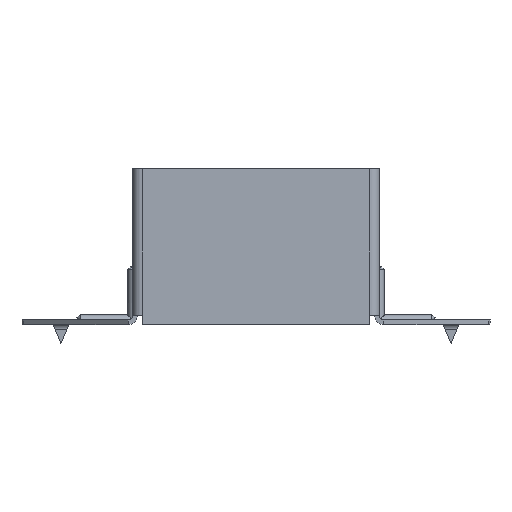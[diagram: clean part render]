
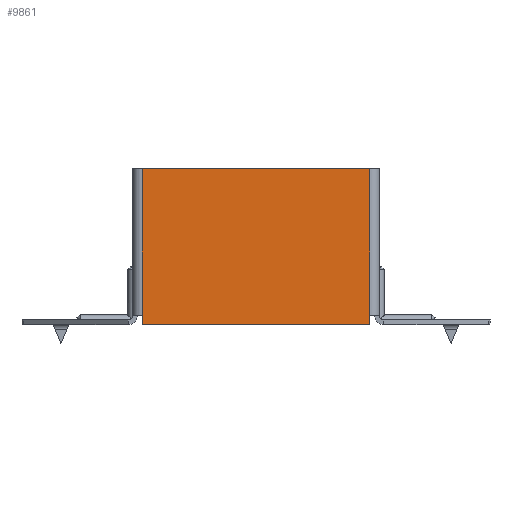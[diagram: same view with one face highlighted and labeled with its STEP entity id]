
A CAD part, front view. The second image highlights one B-rep face of the part: STEP entity #9861.
In plain terms, the highlighted planar face has unit normal (0, -1, 0).
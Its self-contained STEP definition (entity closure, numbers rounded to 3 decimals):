
#51 = DIRECTION ( 'NONE',  ( 0., 0., 1. ) ) ;
#400 = AXIS2_PLACEMENT_3D ( 'NONE', #8608, #3707, #51 ) ;
#558 = VECTOR ( 'NONE', #1292, 1000. ) ;
#565 = EDGE_CURVE ( 'NONE', #9390, #1703, #7878, .T. ) ;
#674 = VERTEX_POINT ( 'NONE', #13356 ) ;
#746 = CARTESIAN_POINT ( 'NONE',  ( 36.5, 0., -70. ) ) ;
#748 = VERTEX_POINT ( 'NONE', #3348 ) ;
#1292 = DIRECTION ( 'NONE',  ( 0., 0., -1. ) ) ;
#1391 = LINE ( 'NONE', #13460, #7091 ) ;
#1417 = DIRECTION ( 'NONE',  ( 0., 0., 1. ) ) ;
#1642 = ORIENTED_EDGE ( 'NONE', *, *, #2078, .T. ) ;
#1703 = VERTEX_POINT ( 'NONE', #10784 ) ;
#2078 = EDGE_CURVE ( 'NONE', #6073, #674, #2534, .T. ) ;
#2125 = LINE ( 'NONE', #12156, #558 ) ;
#2534 = LINE ( 'NONE', #4159, #9942 ) ;
#3292 = DIRECTION ( 'NONE',  ( -1., 0., 0. ) ) ;
#3294 = CARTESIAN_POINT ( 'NONE',  ( 0., 0., -20. ) ) ;
#3348 = CARTESIAN_POINT ( 'NONE',  ( 36.5, 0., -67. ) ) ;
#3707 = DIRECTION ( 'NONE',  ( 0., 1., 0. ) ) ;
#4085 = ORIENTED_EDGE ( 'NONE', *, *, #4830, .F. ) ;
#4159 = CARTESIAN_POINT ( 'NONE',  ( -36.5, 0., 0. ) ) ;
#4670 = EDGE_LOOP ( 'NONE', ( #5555, #15256, #1642, #4085, #14840, #15815 ) ) ;
#4830 = EDGE_CURVE ( 'NONE', #9634, #674, #7303, .T. ) ;
#5001 = EDGE_CURVE ( 'NONE', #748, #9390, #1391, .T. ) ;
#5037 = DIRECTION ( 'NONE',  ( 0., 0., 1. ) ) ;
#5555 = ORIENTED_EDGE ( 'NONE', *, *, #565, .T. ) ;
#6073 = VERTEX_POINT ( 'NONE', #6200 ) ;
#6200 = CARTESIAN_POINT ( 'NONE',  ( -36.5, 0., -67. ) ) ;
#7091 = VECTOR ( 'NONE', #5037, 1000. ) ;
#7303 = LINE ( 'NONE', #10533, #13046 ) ;
#7878 = LINE ( 'NONE', #3294, #15751 ) ;
#8608 = CARTESIAN_POINT ( 'NONE',  ( 0., 0., 0. ) ) ;
#8713 = CARTESIAN_POINT ( 'NONE',  ( 36.5, 0., -70. ) ) ;
#9204 = VECTOR ( 'NONE', #1417, 1000. ) ;
#9390 = VERTEX_POINT ( 'NONE', #15623 ) ;
#9634 = VERTEX_POINT ( 'NONE', #746 ) ;
#9816 = LINE ( 'NONE', #8713, #9204 ) ;
#9861 = ADVANCED_FACE ( 'NONE', ( #15101 ), #13550, .F. ) ;
#9942 = VECTOR ( 'NONE', #15211, 1000. ) ;
#10533 = CARTESIAN_POINT ( 'NONE',  ( -38., 0., -70. ) ) ;
#10784 = CARTESIAN_POINT ( 'NONE',  ( -36.5, 0., -20. ) ) ;
#11168 = EDGE_CURVE ( 'NONE', #1703, #6073, #2125, .T. ) ;
#12156 = CARTESIAN_POINT ( 'NONE',  ( -36.5, 0., 0. ) ) ;
#13019 = DIRECTION ( 'NONE',  ( -1., 0., 0. ) ) ;
#13046 = VECTOR ( 'NONE', #3292, 1000. ) ;
#13356 = CARTESIAN_POINT ( 'NONE',  ( -36.5, 0., -70. ) ) ;
#13460 = CARTESIAN_POINT ( 'NONE',  ( 36.5, 0., -70. ) ) ;
#13550 = PLANE ( 'NONE',  #400 ) ;
#14840 = ORIENTED_EDGE ( 'NONE', *, *, #15775, .T. ) ;
#15101 = FACE_OUTER_BOUND ( 'NONE', #4670, .T. ) ;
#15211 = DIRECTION ( 'NONE',  ( 0., 0., -1. ) ) ;
#15256 = ORIENTED_EDGE ( 'NONE', *, *, #11168, .T. ) ;
#15623 = CARTESIAN_POINT ( 'NONE',  ( 36.5, 0., -20. ) ) ;
#15751 = VECTOR ( 'NONE', #13019, 1000. ) ;
#15775 = EDGE_CURVE ( 'NONE', #9634, #748, #9816, .T. ) ;
#15815 = ORIENTED_EDGE ( 'NONE', *, *, #5001, .T. ) ;
